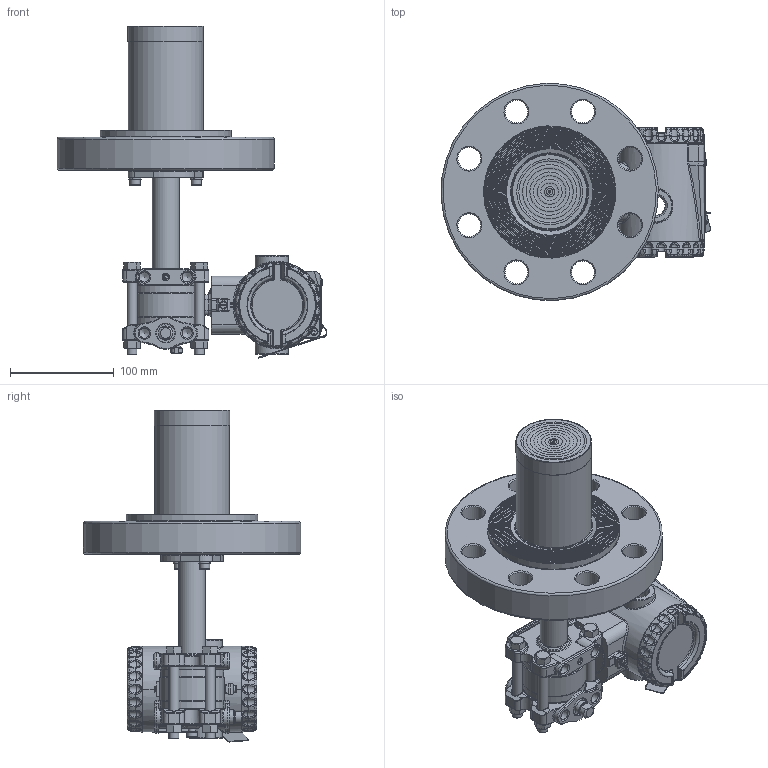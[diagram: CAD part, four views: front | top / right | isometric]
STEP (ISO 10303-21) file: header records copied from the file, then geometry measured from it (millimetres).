
FILE_DESCRIPTION(/* description */ (''),/* implementation_level */ '2;1');
FILE_NAME(/* name */ 'F:\Area\Desenvolvimento_2\Projects\Sensor\projetos\LD400-3d\dimensionais 3D clientes\LD400L\LD400L 3-600 RF ext 100 ref 1-4NPT purga acima.stp',/* time_stamp */ '2023-02-23T16:24:22-03:00',/* author */ ('inventor02'),/* organization */ (''),/* preprocessor_version */ 'ST-DEVELOPER v17',/* originating_system */ 'Autodesk Inventor 2019',/* authorisation */ '');
FILE_SCHEMA (('CONFIG_CONTROL_DESIGN'));
Products named in the file (41): LD30XL 3-600 RF ext 100 ref 1-4NPT purga acima; 204-0301-L-3 600 RF ext 100 purga acima; nivel fx3 com baixa diferencial 1-4NPT purga acima; involucro fx0-3 apos a usinagem final; flange diferencial std purga; 101-C-7484-01 flange selo nivel VR; 201-A-0504-tubo união teste 1; bujao 1-4NPT; Sangria; Porca 3-8 x 16 UNC; Paraf. 3-8 x 16 UNC; adaptação tubo x flanges 1-1-2 a 4pol; 101-B-0161-anel cortado do tubo - teste1; 101-B-0162-flange fixação tubo; ANSI B18.3.1M - M6x1 x 16; DIN 127 - A 6; flange 3 600 ext 100; 101-C-0129-12; 096-B-0199-14; 101-B-7701-02 ext 3-100; Carcaça 400 com tampas e plaqueta sem letras; 101-D-0845-05 carcaça LD400 sem letras; 101-B-3614-03-tampa 400 sem letras; Tampa visor 400 montada sem letras; 101-B-3612-05 tampa visor 400 sem letras; 101-A-6107; oring 2034; 00034775-0; WHW_250; DIN 915 - M6 x 10; Chapa aterramento externo; 201-A-1771-02 inserto terra recartilhado; AS 1969 - ST4,2; ISO 1207 - M4 x 8; ANSI B18.3.1M - M4x0,7 x 8; Subconjunto plaqueta 400; plaqueta 400 em branco; Parafuso da Plaqueta; Rebite da Plaqueta; 096-A-0169-03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
Assembly tree (50 placements, depth 4):
  LD30XL 3-600 RF ext 100 ref 1-4NPT purga acima
    204-0301-L-3 600 RF ext 100 purga acima
      nivel fx3 com baixa diferencial 1-4NPT purga acima
        involucro fx0-3 apos a usinagem final
        flange diferencial std purga
        101-C-7484-01 flange selo nivel VR
        201-A-0504-tubo união teste 1
        DIN 915 - M6 x 10
        bujao 1-4NPT
        Sangria
        Porca 3-8 x 16 UNC  x4
        Paraf. 3-8 x 16 UNC  x4
      adaptação tubo x flanges 1-1-2 a 4pol
        101-B-0161-anel cortado do tubo - teste1
        101-B-0162-flange fixação tubo
        ANSI B18.3.1M - M6x1 x 16  x2
        DIN 127 - A 6  x2
      flange 3 600 ext 100
        101-C-0129-12
        096-B-0199-14
        101-B-7701-02 ext 3-100
    Carcaça 400 com tampas e plaqueta sem letras
      101-D-0845-05 carcaça LD400 sem letras
      101-B-3614-03-tampa 400 sem letras
      Tampa visor 400 montada sem letras
        101-B-3612-05 tampa visor 400 sem letras
        101-A-6107
        oring 2034
        00034775-0
        WHW_250
      DIN 915 - M6 x 10
      Chapa aterramento externo
      201-A-1771-02 inserto terra recartilhado
      AS 1969 - ST4,2
      ISO 1207 - M4 x 8
      ANSI B18.3.1M - M4x0,7 x 8  x2
      Subconjunto plaqueta 400
        plaqueta 400 em branco
        Parafuso da Plaqueta
        Rebite da Plaqueta
        096-A-0169-03
        101-A-0502-01
Bounding box: 260.65 x 209.8 x 320.72 mm (x, y, z)
Volume: 1823807.4 mm3; surface area: 416352.5 mm2
Topology: 43 solids, 43 shells, 2809 faces, 6797 edges, 4087 vertices
Faces by surface type: plane 739, cylinder 668, bspline 605, torus 491, cone 230, sphere 76
Full cylindrical faces by diameter (mm): 2 x4, 2.1 x1, 2.2 x1, 2.459 x3, 2.5 x1, 2.7 x1, 2.8 x1, 3 x4, 3.242 x3, 3.5 x1, 3.571 x1, 4 x5, 4.3 x2, 4.4 x1, 4.917 x4, 5 x1, 5.5 x3, 6 x6, 6.1 x2, 6.2 x1, 6.647 x1, 7 x5, 7.6 x2, 7.798 x4, 8 x1, 9.525 x4, 9.728 x6, 10 x2, 10.5 x8, 10.719 x2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
Entity records: 99875 total; most frequent: CARTESIAN_POINT 37281, DIRECTION 12942, ORIENTED_EDGE 12834, EDGE_CURVE 6417, AXIS2_PLACEMENT_3D 5554, VERTEX_POINT 3893, CIRCLE 3233, EDGE_LOOP 2870
